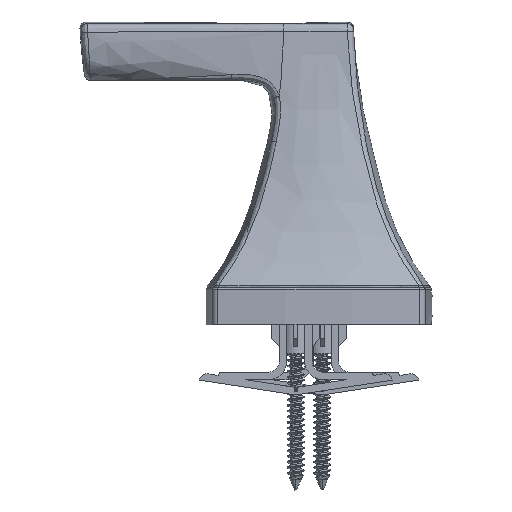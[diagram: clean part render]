
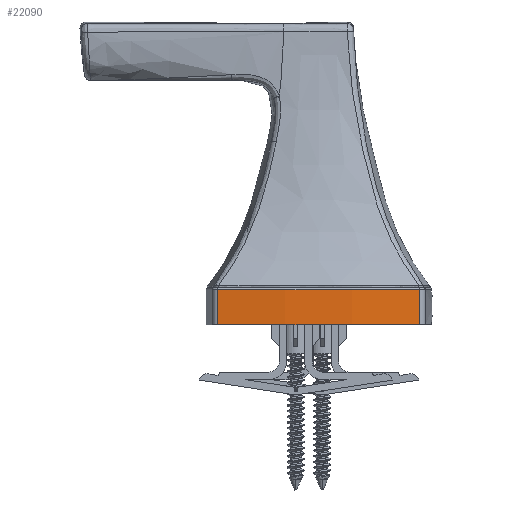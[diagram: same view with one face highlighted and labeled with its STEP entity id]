
A CAD part, left-side view. The second image highlights one B-rep face of the part: STEP entity #22090.
In plain terms, the highlighted cylindrical face has radius 177.909 mm (diameter 355.817 mm), a partial arc.
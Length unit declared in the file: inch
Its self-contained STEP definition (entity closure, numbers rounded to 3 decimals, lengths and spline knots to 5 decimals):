
#1672 = DIRECTION ( 'NONE',  ( 0., 0., -1. ) ) ;
#2769 = CARTESIAN_POINT ( 'NONE',  ( 5.9375, 0., 0.33031 ) ) ;
#5297 = DIRECTION ( 'NONE',  ( 0., 0., 1. ) ) ;
#5856 = CARTESIAN_POINT ( 'NONE',  ( -1.00196, -0.95066, 0. ) ) ;
#6990 = CARTESIAN_POINT ( 'NONE',  ( -1.00196, -0.95066, 0. ) ) ;
#7132 = DIRECTION ( 'NONE',  ( -0.991, -0.136, 0. ) ) ;
#7324 = ORIENTED_EDGE ( 'NONE', *, *, #9308, .T. ) ;
#8809 = CIRCLE ( 'NONE', #26828, 7.00428 ) ;
#8894 = CYLINDRICAL_SURFACE ( 'NONE', #23150, 7.00428 ) ;
#9095 = ORIENTED_EDGE ( 'NONE', *, *, #30642, .F. ) ;
#9308 = EDGE_CURVE ( 'NONE', #27570, #29117, #18347, .T. ) ;
#10397 = CIRCLE ( 'NONE', #21891, 7.00428 ) ;
#10773 = DIRECTION ( 'NONE',  ( 1., 0., 0. ) ) ;
#11952 = EDGE_CURVE ( 'NONE', #27570, #18000, #8809, .T. ) ;
#12673 = CARTESIAN_POINT ( 'NONE',  ( -1.00196, -0.95067, 0.33031 ) ) ;
#12680 = CARTESIAN_POINT ( 'NONE',  ( -1.00196, 0.95067, 0.33031 ) ) ;
#14226 = DIRECTION ( 'NONE',  ( 0., 0., 1. ) ) ;
#14831 = CARTESIAN_POINT ( 'NONE',  ( 5.9375, 0., 0. ) ) ;
#17989 = DIRECTION ( 'NONE',  ( 0., 0., 1. ) ) ;
#18000 = VERTEX_POINT ( 'NONE', #22200 ) ;
#18347 = LINE ( 'NONE', #5856, #26856 ) ;
#18641 = LINE ( 'NONE', #23778, #27784 ) ;
#20773 = ORIENTED_EDGE ( 'NONE', *, *, #26045, .F. ) ;
#21891 = AXIS2_PLACEMENT_3D ( 'NONE', #2769, #17989, #23295 ) ;
#22090 = ADVANCED_FACE ( 'NONE', ( #24296 ), #8894, .T. ) ;
#22200 = CARTESIAN_POINT ( 'NONE',  ( -1.00196, 0.95066, 0. ) ) ;
#22314 = ORIENTED_EDGE ( 'NONE', *, *, #11952, .F. ) ;
#23150 = AXIS2_PLACEMENT_3D ( 'NONE', #29067, #31806, #10773 ) ;
#23235 = EDGE_LOOP ( 'NONE', ( #9095, #22314, #7324, #20773 ) ) ;
#23295 = DIRECTION ( 'NONE',  ( -0.991, 0.136, 0. ) ) ;
#23778 = CARTESIAN_POINT ( 'NONE',  ( -1.00196, 0.95066, 0. ) ) ;
#24296 = FACE_OUTER_BOUND ( 'NONE', #23235, .T. ) ;
#26045 = EDGE_CURVE ( 'NONE', #32739, #29117, #10397, .T. ) ;
#26828 = AXIS2_PLACEMENT_3D ( 'NONE', #14831, #1672, #7132 ) ;
#26856 = VECTOR ( 'NONE', #14226, 39.37008 ) ;
#27570 = VERTEX_POINT ( 'NONE', #6990 ) ;
#27784 = VECTOR ( 'NONE', #5297, 39.37008 ) ;
#29067 = CARTESIAN_POINT ( 'NONE',  ( 5.9375, 0., 0. ) ) ;
#29117 = VERTEX_POINT ( 'NONE', #12673 ) ;
#30642 = EDGE_CURVE ( 'NONE', #18000, #32739, #18641, .T. ) ;
#31806 = DIRECTION ( 'NONE',  ( 0., 0., -1. ) ) ;
#32739 = VERTEX_POINT ( 'NONE', #12680 ) ;
